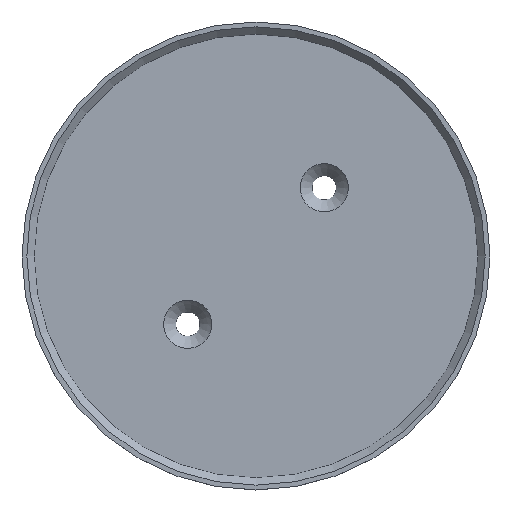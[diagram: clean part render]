
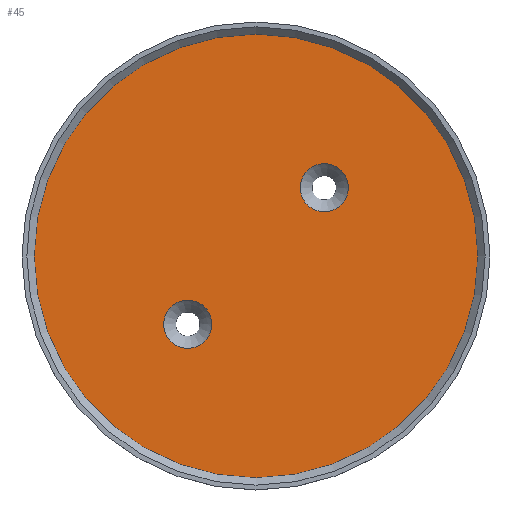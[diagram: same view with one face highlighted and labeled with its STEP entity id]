
A CAD part, top view. The second image highlights one B-rep face of the part: STEP entity #45.
In plain terms, the highlighted planar face has unit normal (0, 0, 1).
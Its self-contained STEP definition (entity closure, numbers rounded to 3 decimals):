
#45=ADVANCED_FACE('',(#67,#68,#69),#55,.F.);
#55=PLANE('',#178);
#67=FACE_BOUND('',#89,.T.);
#68=FACE_BOUND('',#90,.T.);
#69=FACE_BOUND('',#91,.T.);
#89=EDGE_LOOP('',(#113));
#90=EDGE_LOOP('',(#114));
#91=EDGE_LOOP('',(#115));
#113=ORIENTED_EDGE('',*,*,#147,.T.);
#114=ORIENTED_EDGE('',*,*,#148,.T.);
#115=ORIENTED_EDGE('',*,*,#149,.T.);
#135=VERTEX_POINT('',#255);
#136=VERTEX_POINT('',#257);
#137=VERTEX_POINT('',#259);
#147=EDGE_CURVE('',#135,#135,#159,.T.);
#148=EDGE_CURVE('',#136,#136,#160,.T.);
#149=EDGE_CURVE('',#137,#137,#161,.T.);
#159=CIRCLE('',#175,5.);
#160=CIRCLE('',#176,5.);
#161=CIRCLE('',#177,46.);
#175=AXIS2_PLACEMENT_3D('',#254,#210,#211);
#176=AXIS2_PLACEMENT_3D('',#256,#212,#213);
#177=AXIS2_PLACEMENT_3D('',#258,#214,#215);
#178=AXIS2_PLACEMENT_3D('',#260,#216,#217);
#210=DIRECTION('',(0.,0.,-1.));
#211=DIRECTION('',(-1.,0.,0.));
#212=DIRECTION('',(0.,0.,-1.));
#213=DIRECTION('',(-1.,0.,0.));
#214=DIRECTION('',(0.,0.,1.));
#215=DIRECTION('',(1.,0.,0.));
#216=DIRECTION('',(0.,0.,-1.));
#217=DIRECTION('',(-1.,0.,0.));
#254=CARTESIAN_POINT('',(14.142,14.142,-26.));
#255=CARTESIAN_POINT('',(9.142,14.142,-26.));
#256=CARTESIAN_POINT('',(-14.142,-14.142,-26.));
#257=CARTESIAN_POINT('',(-19.142,-14.142,-26.));
#258=CARTESIAN_POINT('',(0.,0.,-26.));
#259=CARTESIAN_POINT('',(46.,0.,-26.));
#260=CARTESIAN_POINT('',(0.,0.,-26.));
